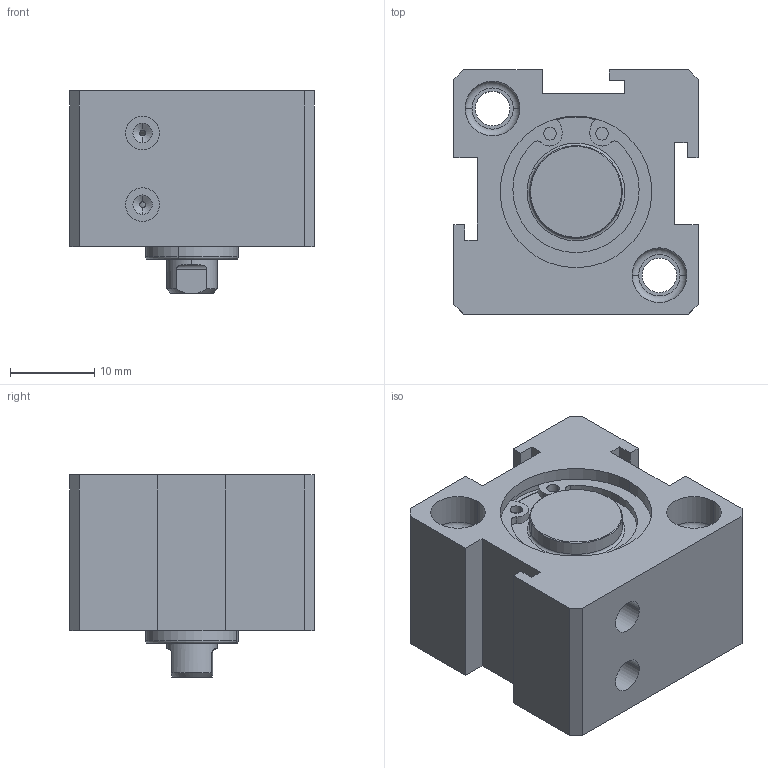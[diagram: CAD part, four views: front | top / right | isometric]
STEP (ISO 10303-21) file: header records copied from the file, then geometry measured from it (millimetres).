
FILE_DESCRIPTION (( 'STEP AP203' ), '1' );
FILE_NAME ('SDA-16X0CYLÝNDER.STEP', '2014-05-29T15:13:50', ( 'user' ), ( '' ), 'SwSTEP 2.0', 'SolidWorks 2013', '' );
FILE_SCHEMA (( 'CONFIG_CONTROL_DESIGN' ));
Length unit declared in the file: millimetre
Products named in the file (9): SDA 16X0 M尳 VE TOP; SDA 16 HALKA; SDA 16 O-R嵣G; SDA 16 ORTA PÝSTON O-RÝNG; SDA 16 烰 KAPAK; SDA 16X0 BORU; SDA 16 諲 KAPAK KE荅; SDA 16 ARKA KAPAK; SDA-16X0CYLÝNDER
Assembly tree (10 placements, depth 2):
  SDA-16X0CYLÝNDER
    SDA 16X0 BORU
    SDA 16 ARKA KAPAK
    SDA 16X0 M尳 VE TOP
    SDA 16 HALKA  x2
    SDA 16 O-R嵣G  x2
    SDA 16 ORTA PÝSTON O-RÝNG
    SDA 16 烰 KAPAK
    SDA 16 諲 KAPAK KE荅
Bounding box: 29 x 29 x 24 mm (x, y, z)
Volume: 12123.3 mm3; surface area: 10973.3 mm2
Topology: 10 solids, 10 shells, 452 faces, 1051 edges, 663 vertices
Faces by surface type: cylinder 192, cone 130, plane 96, torus 34
Entity records: 13744 total; most frequent: CARTESIAN_POINT 2698, DIRECTION 2297, ORIENTED_EDGE 1972, EDGE_CURVE 986, AXIS2_PLACEMENT_3D 964, VERTEX_POINT 621, CIRCLE 525, EDGE_LOOP 495
